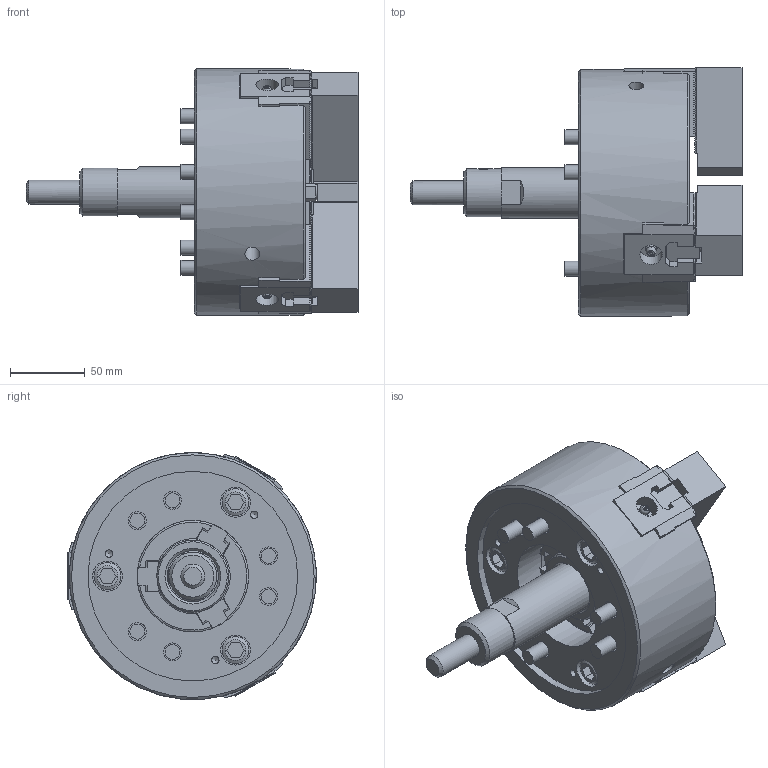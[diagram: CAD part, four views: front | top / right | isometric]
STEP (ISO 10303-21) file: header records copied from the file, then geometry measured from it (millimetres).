
FILE_DESCRIPTION (( 'STEP AP214' ), '1' );
FILE_NAME ('N-06_UC.STEP', '2020-03-05T00:13:24', ( '' ), ( '' ), 'SwSTEP 2.0', 'SolidWorks 2017', '' );
FILE_SCHEMA (( 'AUTOMOTIVE_DESIGN' ));
Length unit declared in the file: millimetre
Products named in the file (18): B傾僫僣僉 M10亊300_~30; 61P400822-4_T僫僢僩b_g_棉太倌佱UA; 61P302540-2_ソフトジョー_W_‡_[_ﾃﾞﾌｫﾙﾄ_ATI≪UA; Part2^61P208177-9_僋儈僞僥_^_e_棉太倌I佱UA; B傾僫僣僉 M10亊300_~30_棉太倌TI佱UA; Part2^61P208177-9_クミタテ_^_e; 61P302540-2_ソフトジョー_W_‡_[; N-06_UC; 61P400822-4_T僫僢僩b_g
Assembly tree (13 placements, depth 2):
  B傾僫僣僉 M10亊300_~30
  B傾僫僣僉 M10亊300_~30
  B傾僫僣僉 M10亊300_~30
  B傾僫僣僉 M10亊300_~30
  B傾僫僣僉 M10亊300_~30
Bounding box: 221.7 x 165.99 x 164.79 mm (x, y, z)
Volume: 1642314.7 mm3; surface area: 244226.7 mm2
Topology: 13 solids, 31 shells, 2147 faces, 5933 edges, 3936 vertices
Faces by surface type: plane 1925, cylinder 163, cone 44, torus 9, sphere 6
Full cylindrical faces by diameter (mm): 1.9 x3, 4.2 x1, 5 x3, 8.5 x3, 9 x2, 9.5 x3, 10 x20, 11 x6, 12 x6, 15 x3, 16 x13, 17 x12, 18 x3, 20 x3, 21 x1, 23.6 x1, 24 x1, 25 x1, 32 x1, 34 x1, 48 x1, 74.6 x1, 140 x1, 165 x1
Entity records: 47910 total; most frequent: CARTESIAN_POINT 9017, ORIENTED_EDGE 8124, DIRECTION 7470, EDGE_CURVE 4062, LINE 3548, VECTOR 3548, VERTEX_POINT 2744, AXIS2_PLACEMENT_3D 1961
